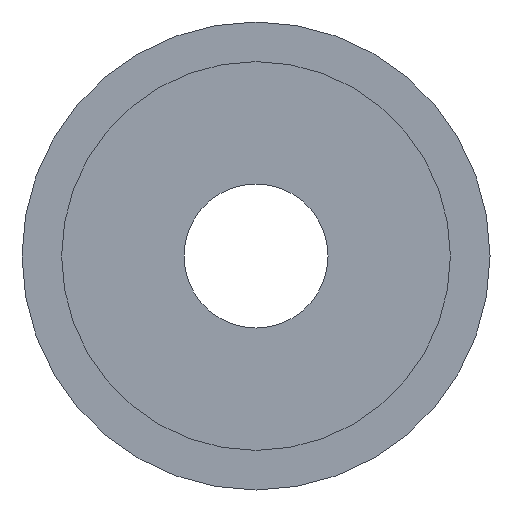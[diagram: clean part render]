
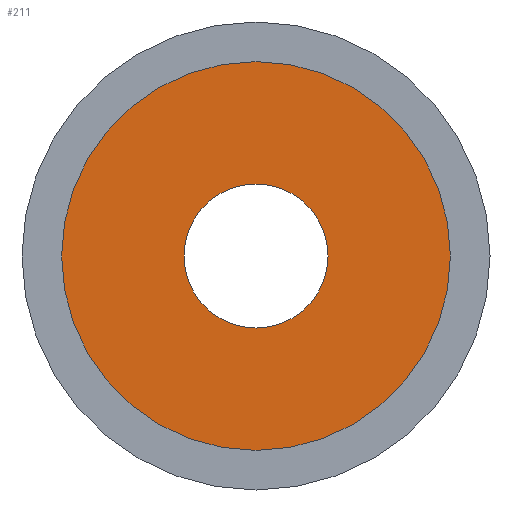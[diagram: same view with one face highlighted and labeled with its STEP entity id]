
A CAD part, front view. The second image highlights one B-rep face of the part: STEP entity #211.
In plain terms, the highlighted planar face has unit normal (0, -1, 0).
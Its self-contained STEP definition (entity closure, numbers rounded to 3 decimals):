
#6 = VERTEX_POINT ( 'NONE', #187 ) ;
#8 = EDGE_CURVE ( 'NONE', #9, #6, #277, .T. ) ;
#9 = VERTEX_POINT ( 'NONE', #272 ) ;
#53 = VERTEX_POINT ( 'NONE', #499 ) ;
#55 = EDGE_CURVE ( 'NONE', #56, #53, #498, .T. ) ;
#56 = VERTEX_POINT ( 'NONE', #493 ) ;
#127 = EDGE_LOOP ( 'NONE', ( #128, #129 ) ) ;
#128 = ORIENTED_EDGE ( 'NONE', *, *, #55, .T. ) ;
#129 = ORIENTED_EDGE ( 'NONE', *, *, #130, .T. ) ;
#130 = EDGE_CURVE ( 'NONE', #53, #56, #427, .T. ) ;
#187 = CARTESIAN_POINT ( 'NONE',  ( 0., 0., 5.4 ) ) ;
#211 = ADVANCED_FACE ( 'NONE', ( #325, #324 ), #329, .F. ) ;
#212 = EDGE_LOOP ( 'NONE', ( #213, #214 ) ) ;
#213 = ORIENTED_EDGE ( 'NONE', *, *, #8, .T. ) ;
#214 = ORIENTED_EDGE ( 'NONE', *, *, #215, .T. ) ;
#215 = EDGE_CURVE ( 'NONE', #6, #9, #319, .T. ) ;
#272 = CARTESIAN_POINT ( 'NONE',  ( 0., 0., -5.4 ) ) ;
#273 = DIRECTION ( 'NONE',  ( 0., 0., -1. ) ) ;
#274 = DIRECTION ( 'NONE',  ( 0., -1., 0. ) ) ;
#275 = CARTESIAN_POINT ( 'NONE',  ( 0., 0., 0. ) ) ;
#276 = AXIS2_PLACEMENT_3D ( 'NONE', #275, #274, #273 ) ;
#277 = CIRCLE ( 'NONE', #276, 5.4 ) ;
#315 = DIRECTION ( 'NONE',  ( 0., 0., -1. ) ) ;
#316 = DIRECTION ( 'NONE',  ( 0., -1., 0. ) ) ;
#317 = CARTESIAN_POINT ( 'NONE',  ( 0., 0., 0. ) ) ;
#318 = AXIS2_PLACEMENT_3D ( 'NONE', #317, #316, #315 ) ;
#319 = CIRCLE ( 'NONE', #318, 5.4 ) ;
#320 = DIRECTION ( 'NONE',  ( 0., 0., 1. ) ) ;
#321 = DIRECTION ( 'NONE',  ( 0., 1., 0. ) ) ;
#322 = CARTESIAN_POINT ( 'NONE',  ( 0., 0., 0. ) ) ;
#323 = AXIS2_PLACEMENT_3D ( 'NONE', #322, #321, #320 ) ;
#324 = FACE_BOUND ( 'NONE', #127, .T. ) ;
#325 = FACE_OUTER_BOUND ( 'NONE', #212, .T. ) ;
#329 = PLANE ( 'NONE',  #323 ) ;
#423 = DIRECTION ( 'NONE',  ( 0., 0., 1. ) ) ;
#424 = DIRECTION ( 'NONE',  ( 0., 1., 0. ) ) ;
#425 = CARTESIAN_POINT ( 'NONE',  ( 0., 0., 0. ) ) ;
#426 = AXIS2_PLACEMENT_3D ( 'NONE', #425, #424, #423 ) ;
#427 = CIRCLE ( 'NONE', #426, 2. ) ;
#493 = CARTESIAN_POINT ( 'NONE',  ( 0., 0., -2. ) ) ;
#494 = DIRECTION ( 'NONE',  ( 0., 0., 1. ) ) ;
#495 = DIRECTION ( 'NONE',  ( 0., 1., 0. ) ) ;
#496 = CARTESIAN_POINT ( 'NONE',  ( 0., 0., 0. ) ) ;
#497 = AXIS2_PLACEMENT_3D ( 'NONE', #496, #495, #494 ) ;
#498 = CIRCLE ( 'NONE', #497, 2. ) ;
#499 = CARTESIAN_POINT ( 'NONE',  ( 0., 0., 2. ) ) ;
